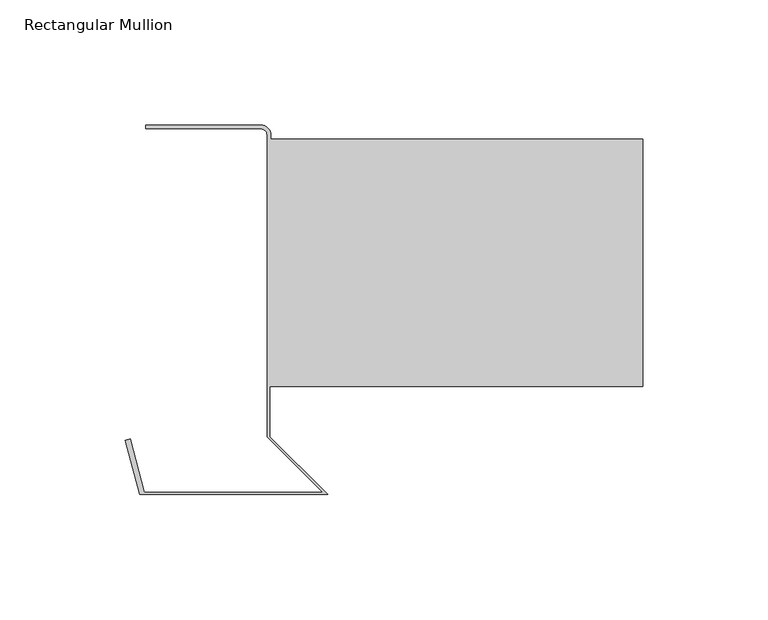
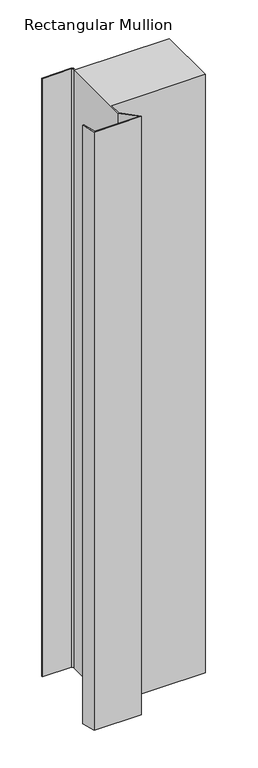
"""IFC4 building model written with IfcOpenShell, lengths in millimetres: member geometry, Rectangular Mullion : TE-V-02_01_Base detail i."""

from ifc_helpers import new_model, si_unit, point, frame, frame_2d, origin, place, context, project, spatial, polyline, circle_curve, trimmed, segment, composite_curve, outline, extrude, source, transform, mapped, element, save


def rectangular_mullion_af7dcb7b(model_context):
    return source(origin(), model_context, "Body", "SweptSolid", [
        extrude(outline(composite_curve([segment(polyline([(-148.8686292, 20.0), (-148.8686292, 0.0), (-125.8686292, -23.0), (-200.8686292, -23.0), (-206.6383068, -1.4672699), (-204.7064551, -0.9496318), (-199.0124361, -22.2), (-127.8, -22.2), (-150.0, 0.0), (-150.0, 120.5)]), True, "CONTINUOUS"), segment(trimmed(circle_curve(frame_2d((-152.5, 120.5)), 2.5), [point((-150.0, 120.5))], [point((-152.5, 123.0))], True, "CARTESIAN"), True, "CONTINUOUS"), segment(polyline([(-152.5, 123.0), (-198.5, 123.0), (-198.5, 124.5), (-152.5, 124.5)]), True, "CONTINUOUS"), segment(trimmed(circle_curve(frame_2d((-152.5, 120.5)), 4.0), [point((-152.5, 124.5))], [point((-148.5, 120.5))], False, "CARTESIAN"), True, "CONTINUOUS"), segment(polyline([(-148.5, 120.5), (-148.5, 119.0), (0.0, 119.0), (0.0, 20.0), (-148.8686292, 20.0)]), True, "CONTINUOUS")], self_intersect=False)), frame((0.0, 0.0, -999.9999997), z_axis=(0.0, 0.0, 1.0), x_axis=(1.0, 0.0, 0.0)), (0.0, 0.0, 1.0), 999.9999997),
    ])


if __name__ == "__main__":
    model = new_model("IFC4")
    model_context = context("Model", 3, world=origin())
    ifc_project = project(units=[si_unit("LENGTHUNIT", "METRE", prefix="MILLI")], contexts=[model_context])
    site = spatial("IfcSite", under=ifc_project)
    building = spatial("IfcBuilding", under=site)
    placement = place(None, origin())
    rectangular_mullion_shape = rectangular_mullion_af7dcb7b(model_context)
    element("IfcMember", 1, ObjectType="Rectangular Mullion : TE-V-02_01_Base detail i", at=placement, inside=building, context=model_context, shape_type="MappedRepresentation", body=[
        mapped(rectangular_mullion_shape, transform((0.0, 0.0, 0.0), x_axis=(1.0, 0.0, 0.0), y_axis=(0.0, 1.0, 0.0), z_axis=(0.0, 0.0, 1.0))),
    ])
    save(model, "model.ifc")
